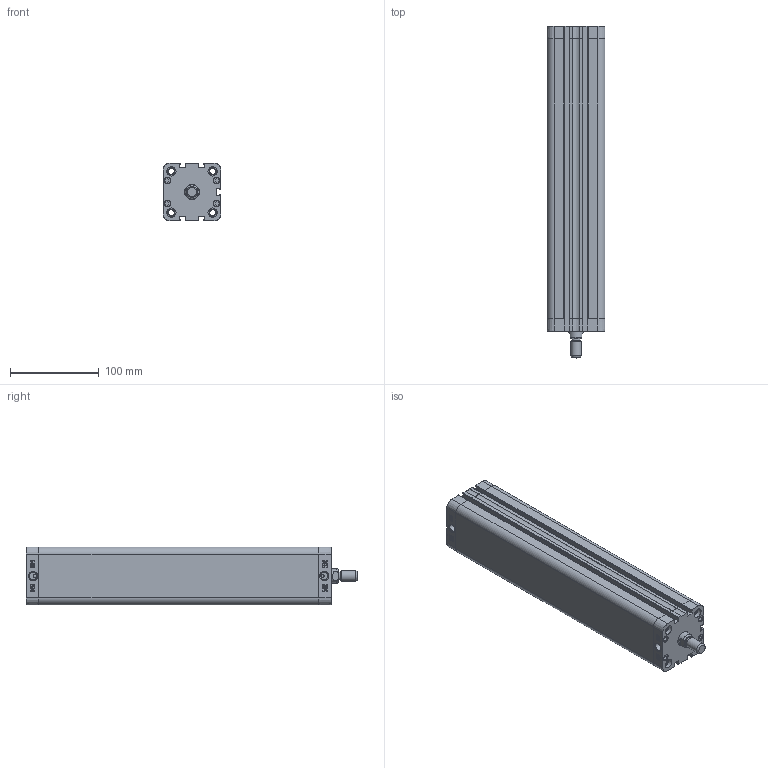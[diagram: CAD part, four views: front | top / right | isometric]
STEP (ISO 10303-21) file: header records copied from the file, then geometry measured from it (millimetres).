
FILE_DESCRIPTION((''),'2;1');
FILE_NAME('T:\Archivio Inventor\- CATALOGHI 2012\SERIE P - NUOVA\PDM\PDM050\PDM050.---.GS.M\PDM050.300.GS.M.stp','2013-02-01T12:23:09',('Administrator'),(''),'Autodesk Inventor 2012','Autodesk Inventor 2012','');
FILE_SCHEMA(('CONFIG_CONTROL_DESIGN'));
Length unit declared in the file: millimetre
Products named in the file (1): PDM050.300.GS.M
Bounding box: 65.5 x 375 x 65.5 mm (x, y, z)
Volume: 602026.4 mm3; surface area: 242398.1 mm2
Topology: 2 solids, 6 shells, 780 faces, 1860 edges, 1167 vertices
Faces by surface type: plane 335, bspline 196, cylinder 131, torus 56, cone 46, sphere 16
Full cylindrical faces by diameter (mm): 3.5 x2, 5.2 x4, 6.647 x8, 7.5 x8, 7.7 x8, 8.047 x4, 8.566 x2, 10 x1, 10.5 x8, 12 x2, 16 x1, 16.5 x1, 50 x1, 52.4 x1, 52.6 x1
Entity records: 25595 total; most frequent: CARTESIAN_POINT 8480, ORIENTED_EDGE 3488, DIRECTION 2866, EDGE_CURVE 1744, VERTEX_POINT 1148, AXIS2_PLACEMENT_3D 978, EDGE_LOOP 962, VECTOR 910
